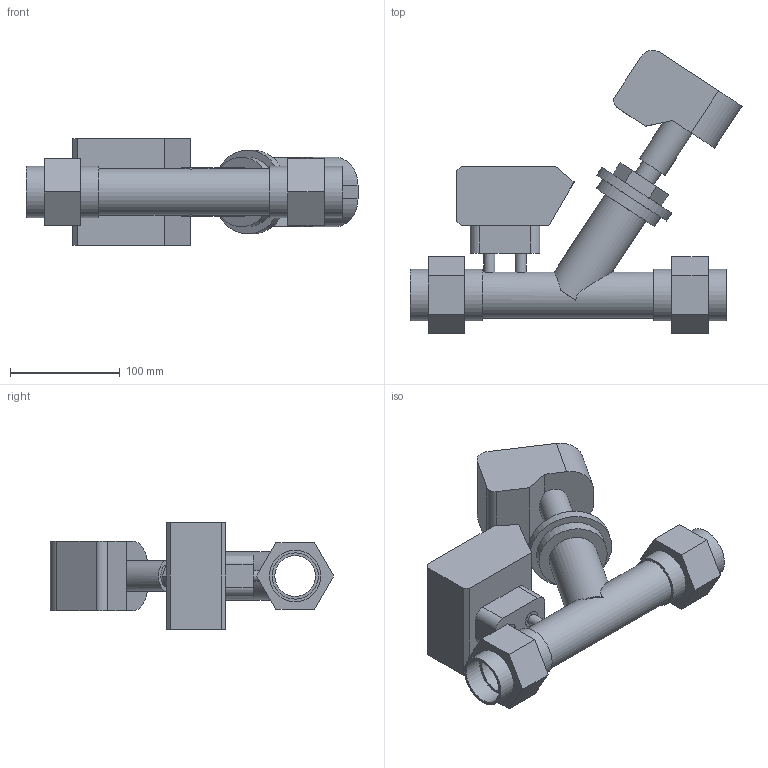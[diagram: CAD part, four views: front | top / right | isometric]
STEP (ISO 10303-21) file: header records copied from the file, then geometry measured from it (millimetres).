
FILE_DESCRIPTION(/* description */ ('VIC VALVE CONTROL TA SERIES 7SM (FPT)','CAx-IF Rec.Pracs.---Representation and Presentation of Product Manufacturing Information (PMI)---4.0---2014-10-13'),/* implementation_level */ '2;1');
FILE_NAME(/* name */ 'C:\Users\kkamble\Documents\7SM\STEP\Victaulic_IPS_Valve Control_TA Series 7SM (FPT)\Victaulic_IPS_Valve Control_TA Series 7SM (FPT)_1.25 (32).stp',/* time_stamp */ '2021-08-27T13:16:17+06:00',/* author */ ('cps_temp'),/* organization */ ('Victaulic'),/* preprocessor_version */ 'ST-DEVELOPER v17.2',/* originating_system */ 'Autodesk Inventor 2019',/* authorisation */ '');
FILE_SCHEMA (('AP242_MANAGED_MODEL_BASED_3D_ENGINEERING_MIM_LF { 1 0 10303 442 1 1 4 }'));
Length unit declared in the file: inch
Products named in the file (1): 7SM-01.25
Bounding box: 302.39 x 258.04 x 97.03 mm (x, y, z)
Volume: 1359589.4 mm3; surface area: 185983.7 mm2
Topology: 1 solids, 1 shells, 84 faces, 211 edges, 148 vertices
Faces by surface type: plane 59, cylinder 25
Full cylindrical faces by diameter (mm): 10.16 x2, 15.24 x2, 20.32 x1, 27.94 x1, 37.084 x1, 42.164 x3, 44.45 x1, 46.914 x4, 63.5 x1, 76.2 x1
Entity records: 2945 total; most frequent: CARTESIAN_POINT 605, DIRECTION 473, ORIENTED_EDGE 422, EDGE_CURVE 211, AXIS2_PLACEMENT_3D 171, VERTEX_POINT 148, LINE 131, VECTOR 131
